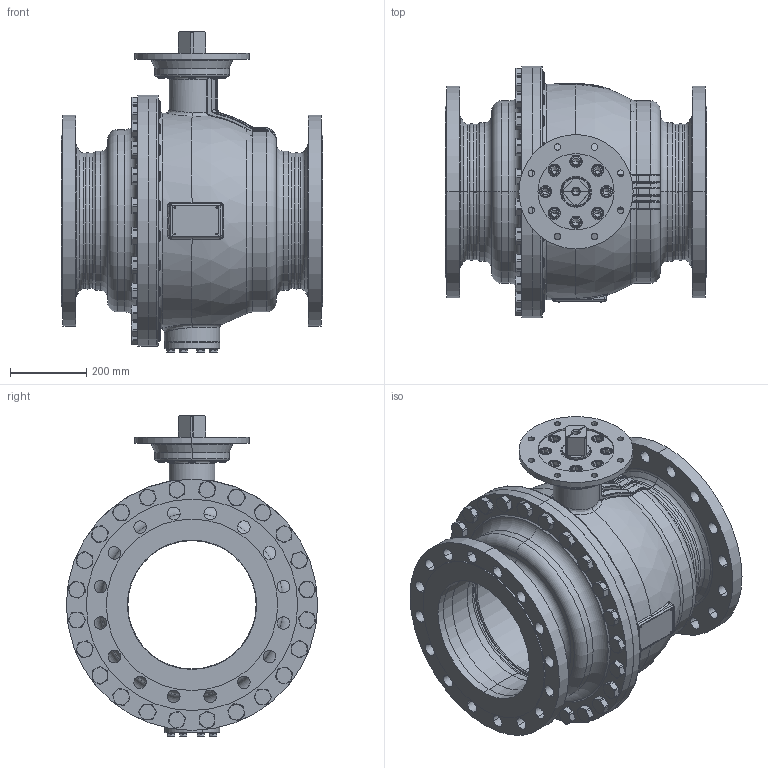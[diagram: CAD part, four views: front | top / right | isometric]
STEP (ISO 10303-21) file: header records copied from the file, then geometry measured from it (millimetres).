
FILE_DESCRIPTION((''),'2;1');
FILE_NAME('KHI-F_XCXD_DN350_PN25-F25-SW55','2026-02-05T15:21:47',('fischerkl'),('KLINGER'),'CREO PARAMETRIC BY PTC INC, 2023014','CREO PARAMETRIC BY PTC INC, 2023014','');
FILE_SCHEMA(('CONFIG_CONTROL_DESIGN'));
Products named in the file (1): KHI-F_XCXD_DN350_PN25-F25-SW55
Bounding box: 686 x 660 x 842.8 mm (x, y, z)
Volume: 45799794.5 mm3; surface area: 6011107.5 mm2
Topology: 1 solids, 4 shells, 3389 faces, 8552 edges, 5337 vertices
Faces by surface type: plane 1732, cylinder 789, cone 448, torus 291, bspline 99, sphere 30
Entity records: 143019 total; most frequent: CARTESIAN_POINT 62241, ORIENTED_EDGE 17052, DIRECTION 16733, EDGE_CURVE 8526, AXIS2_PLACEMENT_3D 6378, VERTEX_POINT 5337, VECTOR 3977, LINE 3977
